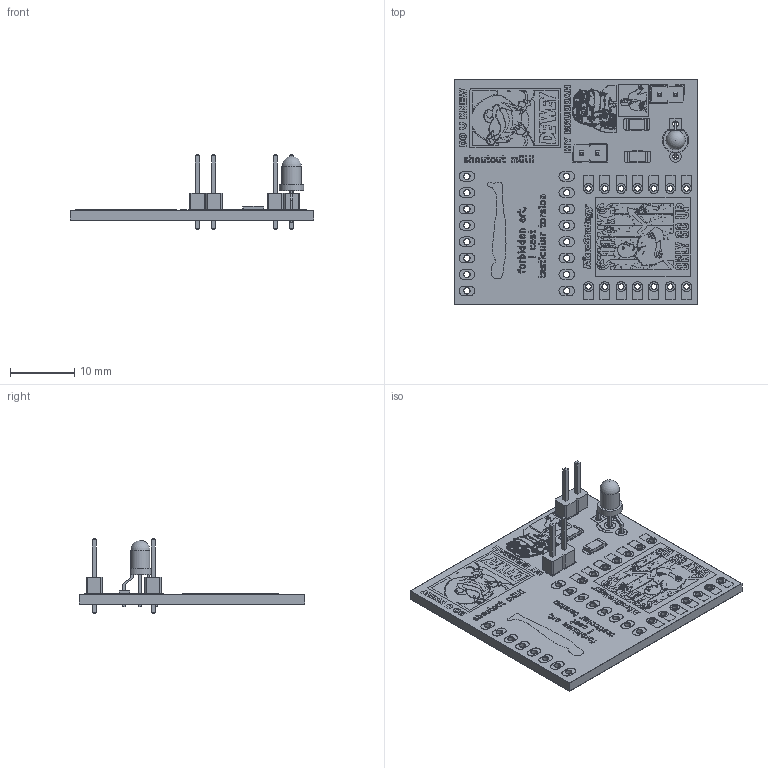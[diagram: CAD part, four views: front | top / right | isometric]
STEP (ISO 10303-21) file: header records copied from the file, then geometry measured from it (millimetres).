
FILE_DESCRIPTION(('KiCad electronic assembly'),'2;1');
FILE_NAME('replica.step','2026-05-01T10:49:09',('Pcbnew'),('Kicad'), 'Open CASCADE STEP processor 7.9','KiCad to STEP converter','Unknown' );
FILE_SCHEMA(('AUTOMOTIVE_DESIGN { 1 0 10303 214 1 1 1 1 }'));
Length unit declared in the file: millimetre
Products named in the file (9): replica 1; PinHeader_1x02_P2.54mm_Vertical; R_1206_3216Metric; LED_D3.0mm-3; slave_pad; slave_silkscreen; slave_soldermask; slave_PCB
Assembly tree (10 placements, depth 2):
  replica 1
    PinHeader_1x02_P2.54mm_Vertical  x2
    R_1206_3216Metric  x2
    LED_D3.0mm-3
    slave_pad
    slave_silkscreen
    slave_soldermask
    slave_soldermask
    slave_PCB
Bounding box: 37.89 x 35.05 x 11.54 mm (x, y, z)
Volume: 2101.5 mm3; surface area: 6801.9 mm2
Topology: 135 solids, 1357 shells, 2223 faces, 21749 edges, 21028 vertices
Faces by surface type: plane 1826, cylinder 396, sphere 1
Full cylindrical faces by diameter (mm): 0.839 x42, 0.85 x9, 0.889 x28, 0.9 x6, 0.95 x60, 1 x40, 1.524 x28, 1.7 x4, 1.8 x4, 3 x1
Entity records: 209124 total; most frequent: CARTESIAN_POINT 44627, DIRECTION 27562, ORIENTED_EDGE 23492, EDGE_CURVE 21560, VERTEX_POINT 20911, LINE 19870, VECTOR 19870, AXIS2_PLACEMENT_3D 3846
